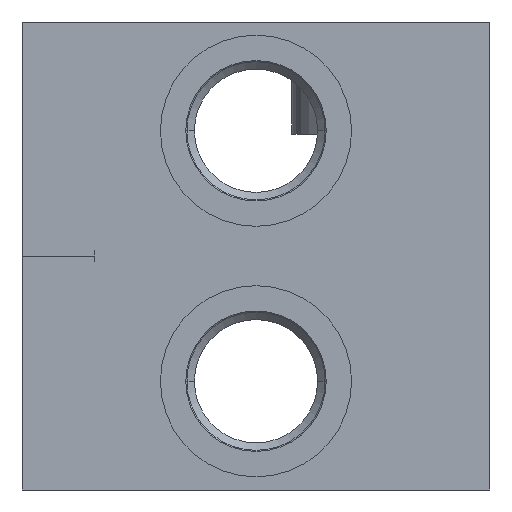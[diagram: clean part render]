
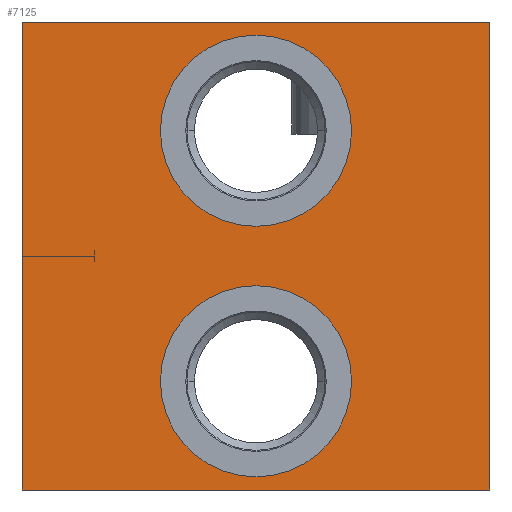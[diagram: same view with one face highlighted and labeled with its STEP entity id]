
A CAD part, left-side view. The second image highlights one B-rep face of the part: STEP entity #7125.
In plain terms, the highlighted planar face has unit normal (-1, 0, 0).
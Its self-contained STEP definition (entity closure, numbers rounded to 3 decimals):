
#30=DIRECTION('',(0.,-1.,0.));
#31=VECTOR('',#30,71.);
#32=CARTESIAN_POINT('',(0.,71.,0.));
#33=LINE('',#32,#31);
#243=DIRECTION('',(0.,0.,-1.));
#244=VECTOR('',#243,71.);
#245=CARTESIAN_POINT('',(0.,0.,0.));
#246=LINE('',#245,#244);
#1456=DIRECTION('',(0.,0.,-1.));
#1457=VECTOR('',#1456,71.);
#1458=CARTESIAN_POINT('',(0.,71.,0.));
#1459=LINE('',#1458,#1457);
#1463=CARTESIAN_POINT('',(0.,35.5,-54.5));
#1464=DIRECTION('',(1.,0.,0.));
#1465=DIRECTION('',(0.,-1.,0.));
#1466=AXIS2_PLACEMENT_3D('',#1463,#1464,#1465);
#1471=CARTESIAN_POINT('',(0.,35.5,-54.5));
#1472=DIRECTION('',(1.,0.,0.));
#1473=DIRECTION('',(0.,1.,0.));
#1474=AXIS2_PLACEMENT_3D('',#1471,#1472,#1473);
#1479=CARTESIAN_POINT('',(0.,35.5,-16.5));
#1480=DIRECTION('',(1.,0.,0.));
#1481=DIRECTION('',(0.,-1.,0.));
#1482=AXIS2_PLACEMENT_3D('',#1479,#1480,#1481);
#1487=CARTESIAN_POINT('',(0.,35.5,-16.5));
#1488=DIRECTION('',(1.,0.,0.));
#1489=DIRECTION('',(0.,1.,0.));
#1490=AXIS2_PLACEMENT_3D('',#1487,#1488,#1489);
#1516=DIRECTION('',(0.,-1.,0.));
#1517=VECTOR('',#1516,71.);
#1518=CARTESIAN_POINT('',(0.,71.,-71.));
#1519=LINE('',#1518,#1517);
#5970=CARTESIAN_POINT('',(0.,0.,0.));
#5972=VERTEX_POINT('',#5970);
#5976=CARTESIAN_POINT('',(0.,71.,0.));
#5977=VERTEX_POINT('',#5976);
#5978=CARTESIAN_POINT('',(0.,0.,-71.));
#5980=VERTEX_POINT('',#5978);
#5984=CARTESIAN_POINT('',(0.,71.,-71.));
#5985=VERTEX_POINT('',#5984);
#6014=CARTESIAN_POINT('',(0.,21.,-54.5));
#6015=CARTESIAN_POINT('',(0.,50.,-54.5));
#6016=VERTEX_POINT('',#6014);
#6017=VERTEX_POINT('',#6015);
#6030=CARTESIAN_POINT('',(0.,21.,-16.5));
#6031=CARTESIAN_POINT('',(0.,50.,-16.5));
#6032=VERTEX_POINT('',#6030);
#6033=VERTEX_POINT('',#6031);
#7101=CARTESIAN_POINT('',(0.,71.,0.));
#7102=DIRECTION('',(-1.,0.,0.));
#7103=DIRECTION('',(0.,-1.,0.));
#7104=AXIS2_PLACEMENT_3D('',#7101,#7102,#7103);
#7105=PLANE('',#7104);
#7106=ORIENTED_EDGE('',*,*,#6691,.T.);
#7107=ORIENTED_EDGE('',*,*,#6789,.T.);
#7109=ORIENTED_EDGE('',*,*,#7108,.F.);
#7110=ORIENTED_EDGE('',*,*,#6876,.F.);
#7111=EDGE_LOOP('',(#7106,#7107,#7109,#7110));
#7112=FACE_OUTER_BOUND('',#7111,.F.);
#7114=ORIENTED_EDGE('',*,*,#7113,.F.);
#7116=ORIENTED_EDGE('',*,*,#7115,.F.);
#7117=EDGE_LOOP('',(#7114,#7116));
#7118=FACE_BOUND('',#7117,.F.);
#7120=ORIENTED_EDGE('',*,*,#7119,.F.);
#7122=ORIENTED_EDGE('',*,*,#7121,.F.);
#7123=EDGE_LOOP('',(#7120,#7122));
#7124=FACE_BOUND('',#7123,.F.);
#1467=CIRCLE('',#1466,14.5);
#1475=CIRCLE('',#1474,14.5);
#1483=CIRCLE('',#1482,14.5);
#1491=CIRCLE('',#1490,14.5);
#6691=EDGE_CURVE('',#5977,#5972,#33,.T.);
#6789=EDGE_CURVE('',#5972,#5980,#246,.T.);
#6876=EDGE_CURVE('',#5977,#5985,#1459,.T.);
#7108=EDGE_CURVE('',#5985,#5980,#1519,.T.);
#7113=EDGE_CURVE('',#6016,#6017,#1467,.T.);
#7115=EDGE_CURVE('',#6017,#6016,#1475,.T.);
#7119=EDGE_CURVE('',#6032,#6033,#1483,.T.);
#7121=EDGE_CURVE('',#6033,#6032,#1491,.T.);
#7125=ADVANCED_FACE('',(#7112,#7118,#7124),#7105,.T.);
